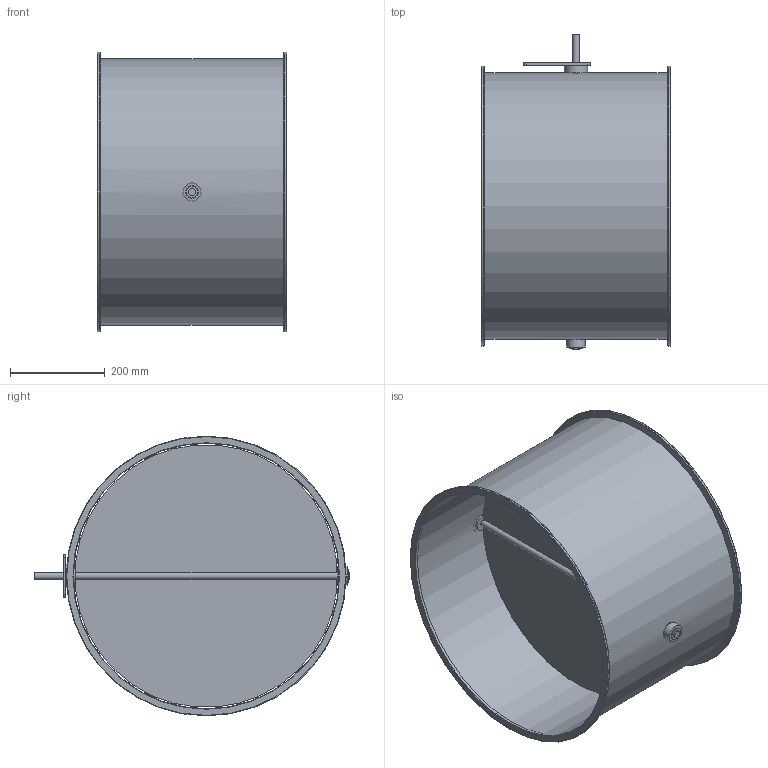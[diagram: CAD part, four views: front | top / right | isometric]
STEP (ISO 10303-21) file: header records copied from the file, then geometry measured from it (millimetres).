
FILE_DESCRIPTION(/* description */ (''),/* implementation_level */ '2;1');
FILE_NAME(/* name */ 'EA111-80B__560_L400_Belimo_Typ_NM.stp',/* time_stamp */ '2017-12-07T11:14:12+01:00',/* author */ (''),/* organization */ (''),/* preprocessor_version */ 'ST-DEVELOPER v11',/* originating_system */ 'SIEMENS UGS NX 6.0',/* authorisation */ '');
FILE_SCHEMA (('CONFIG_CONTROL_DESIGN'));
Length unit declared in the file: millimetre
Products named in the file (1): gars5544kxdq
Bounding box: 400 x 664 x 590 mm (x, y, z)
Volume: 1573587.2 mm3; surface area: 2066912.7 mm2
Topology: 8 solids, 8 shells, 62 faces, 132 edges, 88 vertices
Faces by surface type: cylinder 30, plane 24, torus 6, cone 2
Full cylindrical faces by diameter (mm): 6.1 x6, 15 x3, 25 x3, 25.85 x2, 26 x2, 38 x3, 49 x1, 560 x1, 562 x1, 590 x2
Entity records: 1636 total; most frequent: CARTESIAN_POINT 299, DIRECTION 274, ORIENTED_EDGE 180, AXIS2_PLACEMENT_3D 125, EDGE_LOOP 124, FACE_BOUND 110, EDGE_CURVE 90, VERTEX_POINT 78
